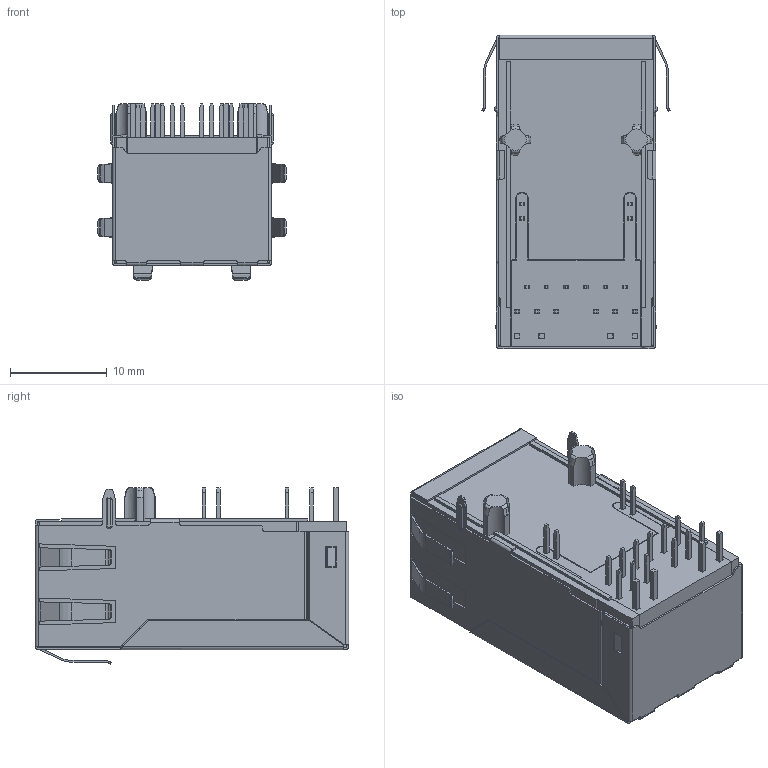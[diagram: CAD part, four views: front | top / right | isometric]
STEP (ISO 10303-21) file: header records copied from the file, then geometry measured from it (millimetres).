
FILE_DESCRIPTION (( 'STEP AP203' ), '1' );
FILE_NAME ('LPJK6074AHNL.STEP', '2025-09-10T03:44:07', ( '' ), ( '' ), 'SwSTEP 2.0', 'SolidWorks 2023', '' );
FILE_SCHEMA (( 'CONFIG_CONTROL_DESIGN' ));
Products named in the file (1): LPJK6074AHNL
Bounding box: 19.5 x 32.45 x 18.25 mm (x, y, z)
Volume: 3513.9 mm3; surface area: 9673.2 mm2
Topology: 1 solids, 1 shells, 2109 faces, 6274 edges, 4094 vertices
Faces by surface type: plane 1527, cylinder 528, bspline 34, cone 10, torus 8, sphere 2
Entity records: 72380 total; most frequent: CARTESIAN_POINT 15306, ORIENTED_EDGE 12544, DIRECTION 11106, EDGE_CURVE 6272, VECTOR 5052, LINE 5052, VERTEX_POINT 4094, AXIS2_PLACEMENT_3D 3027
